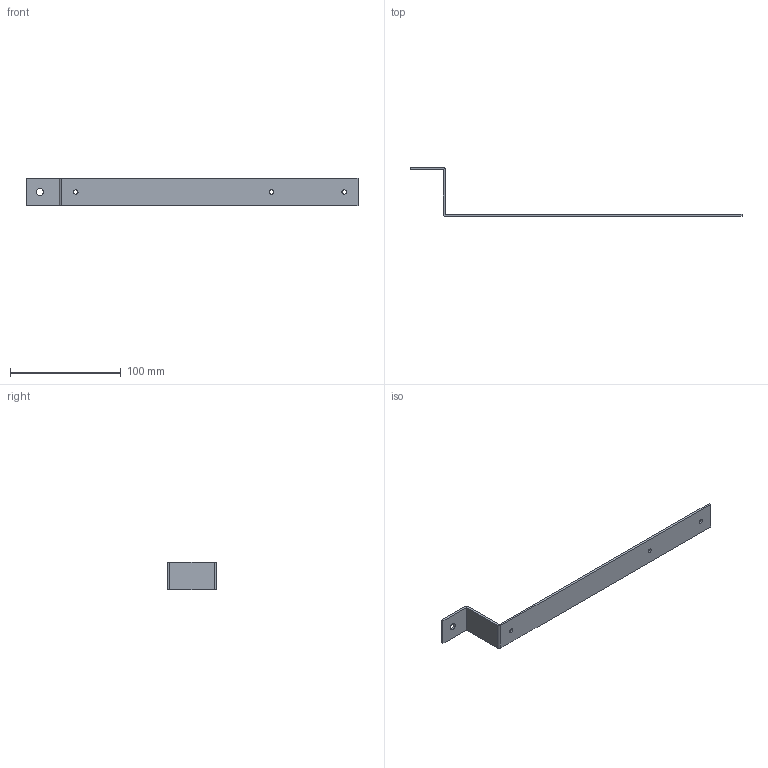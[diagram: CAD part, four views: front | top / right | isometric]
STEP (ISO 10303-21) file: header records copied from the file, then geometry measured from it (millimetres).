
FILE_DESCRIPTION(('HOOPS Exchange Step'),'2;1');
FILE_NAME('C:\Users\ZakSawa\AppData\Local\Temp\Alibre Design\export-AFE460B7-E0D4-4E27-BB83-995529140432.stp','2019-08-02T19:39:35+09:00',('ZakSawa'),('Alibre'),'HOOPS Exchange 2019.2','Alibre','Unknown authorisation');
FILE_SCHEMA( ('AP203_CONFIGURATION_CONTROLLED_3D_DESIGN_OF_MECHANICAL_PARTS_AND_ASSEMBLIES_MIM_LF') );
Length unit declared in the file: millimetre
Products named in the file (1): BatteryHolderMainFrame
Bounding box: 300 x 44 x 25 mm (x, y, z)
Volume: 16915.3 mm3; surface area: 18496.1 mm2
Topology: 1 solids, 1 shells, 16 faces, 46 edges, 32 vertices
Faces by surface type: plane 10, cylinder 6
Full cylindrical faces by diameter (mm): 4 x3, 6.5 x1
Entity records: 579 total; most frequent: DIRECTION 96, CARTESIAN_POINT 95, ORIENTED_EDGE 92, EDGE_CURVE 46, AXIS2_PLACEMENT_3D 33, VERTEX_POINT 32, VECTOR 30, LINE 30
